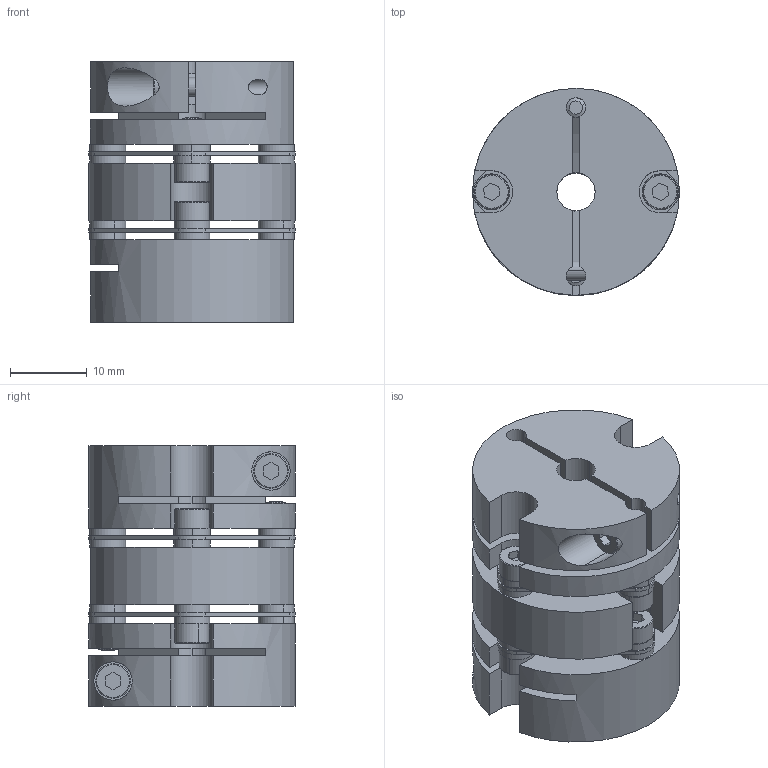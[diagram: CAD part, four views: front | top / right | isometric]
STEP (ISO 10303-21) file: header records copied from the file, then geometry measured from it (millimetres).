
FILE_DESCRIPTION (( 'STEP AP214' ), '1' );
FILE_NAME ('LC-A-025DA-5B-5B-T001.STEP', '2019-09-12T07:15:29', ( 'admin' ), ( 'Microsoft' ), 'SwSTEP 2.0', 'SolidWorks 2016', '' );
FILE_SCHEMA (( 'AUTOMOTIVE_DESIGN' ));
Length unit declared in the file: millimetre
Products named in the file (1): LC-A-025DA-5B-5B-T001
Bounding box: 27 x 27 x 34 mm (x, y, z)
Volume: 13361.9 mm3; surface area: 11085.7 mm2
Topology: 31 solids, 31 shells, 451 faces, 1059 edges, 686 vertices
Faces by surface type: cylinder 199, plane 192, torus 40, cone 20
Entity records: 18780 total; most frequent: CARTESIAN_POINT 2557, DIRECTION 2437, ORIENTED_EDGE 2118, EDGE_CURVE 1059, AXIS2_PLACEMENT_3D 954, VERTEX_POINT 686, EDGE_LOOP 545, LINE 529
